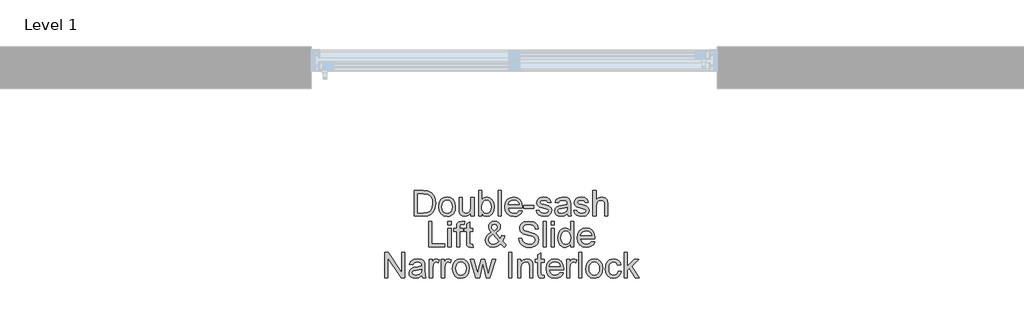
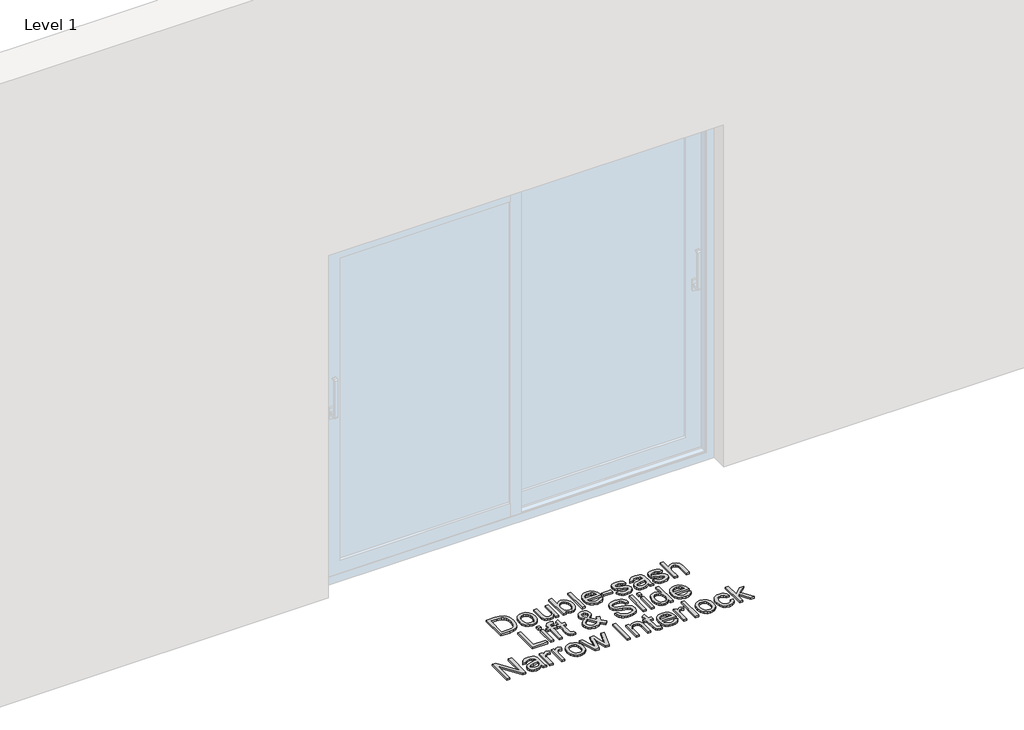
# One storey, part 4 of 17: 1 proxy.
"""IFC4 building model written with IfcOpenShell, lengths in millimetres."""

from ifc_helpers import new_model, si_unit, origin, origin_with_axes, place, context, project, spatial, polyline, outline, extrude, element, save

model = new_model("IFC4")

# Units and contexts
model_context = context("Model", 3, world=origin())
ifc_project = project(units=[si_unit("LENGTHUNIT", "METRE", prefix="MILLI")], contexts=[model_context])

# Site, building, storey
site = spatial("IfcSite", under=ifc_project)
building = spatial("IfcBuilding", under=site)
storey = spatial("IfcBuildingStorey", under=building, Name="Level 1", Elevation=0.0)

# Proxy
placement = place(None, origin())
element("IfcBuildingElementProxy", 1, Name="150mm Arial", ObjectType="150mm Arial", at=placement, inside=storey, context=model_context, shape_type="SweptSolid", body=[
    extrude(outline(polyline([(-1811.5990485, -897.6627533), (-1811.5990485, -746.9782881), (-1759.6173226, -746.9782881), (-1732.7251487, -749.1487919), (-1710.5786526, -759.9277343), (-1700.1583951, -771.4056526), (-1692.7363758, -785.679474), (-1688.2942007, -802.4732871), (-1686.8134757, -821.5111803), (-1690.8233895, -851.9166272), (-1701.1240853, -873.8607883), (-1714.8828719, -887.5276044), (-1732.8906956, -895.0875794), (-1757.115725, -897.6627533), (-1811.5990485, -897.6627533)]), holes=[polyline([(-1792.7634903, -878.8271952), (-1759.4333816, -878.8271952), (-1735.1899581, -876.1048684), (-1721.2104423, -868.4161347), (-1709.7509181, -849.7093353), (-1705.6490339, -821.2168747), (-1707.6585893, -800.6890594), (-1713.6872555, -785.5323212), (-1722.5945983, -775.1212607), (-1733.2401835, -768.8304786), (-1759.9484164, -765.8138463), (-1792.7634903, -765.8138463), (-1792.7634903, -878.8271952)])]), origin_with_axes(), (0.0, 0.0, 1.0), 10.0),
    extrude(outline(polyline([(-1667.9779176, -842.3333013), (-1663.9036245, -815.6526596), (-1651.6807452, -796.8998749), (-1636.5791893, -787.712022), (-1618.4977892, -784.6494044), (-1598.7103364, -788.3788081), (-1582.9052062, -799.5670193), (-1572.5447295, -817.3311212), (-1569.0912373, -840.7881969), (-1570.6179475, -859.8168931), (-1575.1980784, -874.3022466), (-1582.6982726, -885.150167), (-1592.9851728, -893.2665635), (-1605.2034536, -898.3295395), (-1618.4977892, -900.0171981), (-1638.5243653, -896.30159), (-1654.3111014, -885.1547655), (-1664.5612135, -867.0181831), (-1667.9779176, -842.3333013)]), holes=[polyline([(-1649.1423594, -842.2965131), (-1646.9626586, -859.343245), (-1640.4235561, -871.4879494), (-1630.5827127, -878.7582173), (-1618.4977892, -881.18164), (-1606.468048, -878.7444217), (-1596.6455987, -871.4327671), (-1590.1064962, -859.1271143), (-1587.9267954, -841.7079019), (-1590.1202918, -825.1578106), (-1596.700781, -813.1786531), (-1606.5370258, -805.9083852), (-1618.4977892, -803.4849626), (-1630.5827127, -805.8991882), (-1640.4235561, -813.141865), (-1646.9626586, -825.2589782), (-1649.1423594, -842.2965131)])]), origin_with_axes(), (0.0, 0.0, 1.0), 10.0),
    extrude(outline(polyline([(-1477.2678913, -897.6627533), (-1477.2678913, -878.6432542), (-1492.0199593, -894.6737121), (-1511.2601876, -900.0171981), (-1528.9737057, -896.2648018), (-1541.1873879, -886.8470227), (-1546.7975883, -872.9778715), (-1547.9012343, -855.4666885), (-1547.9012343, -787.0038492), (-1529.0656762, -787.0038492), (-1529.0656762, -846.6007324), (-1527.925242, -865.8041726), (-1520.4756316, -877.0797557), (-1506.4409335, -881.18164), (-1490.7139782, -876.9877852), (-1480.3213118, -865.5650493), (-1477.2678913, -844.5773814), (-1477.2678913, -787.0038492), (-1458.4323331, -787.0038492), (-1458.4323331, -897.6627533), (-1477.2678913, -897.6627533)])), origin_with_axes(), (0.0, 0.0, 1.0), 10.0),
    extrude(outline(polyline([(-1413.6978825, -897.6627533), (-1432.5334406, -897.6627533), (-1432.5334406, -746.9782881), (-1413.6978825, -746.9782881), (-1413.6978825, -802.8595632), (-1400.509313, -789.2019441), (-1384.1201701, -784.6494044), (-1365.2478237, -788.7512887), (-1350.6061203, -800.2843892), (-1341.6114055, -818.2186365), (-1338.3556499, -840.6778323), (-1341.7263687, -865.8225667), (-1351.838525, -884.5293661), (-1366.677965, -896.1452401), (-1384.2305347, -900.0171981), (-1400.9783625, -895.0232), (-1413.6978825, -880.0412058), (-1413.6978825, -897.6627533)]), holes=[polyline([(-1413.6978825, -841.5607491), (-1412.4102955, -857.2693103), (-1408.5475346, -867.9010999), (-1398.6791, -877.861505), (-1385.8492155, -881.18164), (-1374.9783025, -878.7352247), (-1365.6892821, -871.3959789), (-1359.3157266, -859.2098878), (-1357.191208, -842.2229367), (-1359.2283546, -824.9876652), (-1365.3397942, -812.9395299), (-1374.3391075, -805.8486044), (-1385.0398751, -803.4849626), (-1395.910788, -805.9313778), (-1405.1998084, -813.2706236), (-1411.573364, -825.2359855), (-1413.6978825, -841.5607491)])]), origin_with_axes(), (0.0, 0.0, 1.0), 10.0),
    extrude(outline(polyline([(-1317.165647, -897.6627533), (-1317.165647, -746.9782881), (-1298.3300888, -746.9782881), (-1298.3300888, -897.6627533), (-1317.165647, -897.6627533)])), origin_with_axes(), (0.0, 0.0, 1.0), 10.0),
    extrude(outline(polyline([(-1192.6008034, -864.7005266), (-1174.1331272, -867.0549713), (-1180.7871928, -880.9701078), (-1191.4051869, -891.3719712), (-1205.7479862, -897.8558914), (-1223.5764674, -900.0171981), (-1245.6769782, -896.2877944), (-1262.6823235, -885.0995832), (-1273.5256453, -867.1791315), (-1277.1400859, -843.2530063), (-1273.4888571, -818.5221391), (-1262.5351707, -800.0268718), (-1245.7597517, -788.4937713), (-1224.6433252, -784.6494044), (-1204.1844877, -788.4845742), (-1187.8367316, -799.9900836), (-1177.1175699, -818.4485627), (-1173.544516, -843.1426417), (-1173.6548806, -848.2194132), (-1258.3045277, -848.2194132), (-1255.0441735, -862.3184907), (-1247.470403, -872.6835659), (-1236.5397092, -879.0571214), (-1223.2085854, -881.18164), (-1204.7409092, -877.2453026), (-1192.6008034, -864.7005266)]), holes=[polyline([(-1258.3045277, -829.383855), (-1192.3800742, -829.383855), (-1194.927657, -819.4326471), (-1199.9216551, -812.3141305), (-1210.9029326, -805.6922545), (-1224.7169016, -803.4849626), (-1237.4134289, -805.2461976), (-1247.9118614, -810.5299028), (-1255.2097204, -818.765861), (-1258.3045277, -829.383855)])]), origin_with_axes(), (0.0, 0.0, 1.0), 10.0),
    extrude(outline(polyline([(-1164.126737, -852.9283027), (-1164.126737, -834.0927446), (-1105.2656177, -834.0927446), (-1105.2656177, -852.9283027), (-1164.126737, -852.9283027)])), origin_with_axes(), (0.0, 0.0, 1.0), 10.0),
    extrude(outline(polyline([(-1091.1389491, -864.7005266), (-1072.303391, -862.3460818), (-1069.3327439, -870.4026975), (-1063.5845877, -876.3255976), (-1043.6085953, -881.18164), (-1024.4051552, -876.7302678), (-1018.1511613, -866.2824192), (-1019.7238568, -861.4815591), (-1024.4419434, -857.8211333), (-1043.8293245, -852.4500561), (-1072.1930264, -843.2346122), (-1084.5722555, -832.4740638), (-1088.7845044, -817.2805374), (-1085.39999, -803.2458393), (-1076.1661519, -792.5220791), (-1064.191593, -786.9486669), (-1047.9863911, -784.6494044), (-1025.0673428, -788.3466185), (-1010.4992158, -798.3530087), (-1004.0244927, -815.2571864), (-1022.8600508, -817.6116312), (-1029.9417792, -807.2189648), (-1046.5148631, -803.4849626), (-1064.5410809, -807.0534179), (-1069.9489462, -815.367551), (-1067.704866, -820.8489927), (-1060.6783199, -825.0060593), (-1044.4547239, -829.015973), (-1016.808392, -837.8819291), (-1003.9693104, -847.9251076), (-999.3156031, -864.2958564), (-1004.7786508, -882.3220741), (-1020.5423942, -895.4002791), (-1043.8661127, -900.0171981), (-1062.8580207, -897.791512), (-1076.7179749, -891.1144538), (-1085.9702071, -880.0595999), (-1091.1389491, -864.7005266)])), origin_with_axes(), (0.0, 0.0, 1.0), 10.0),
    extrude(outline(polyline([(-907.4922571, -883.5360847), (-925.7575982, -896.30159), (-945.9359256, -900.0171981), (-961.6766765, -897.782315), (-973.287952, -891.0776656), (-980.4478553, -880.8965314), (-982.8344897, -868.2321937), (-979.2292462, -853.3329729), (-969.7562848, -842.5172423), (-956.5677153, -836.3368247), (-940.2705429, -833.5041334), (-907.6026217, -827.0294103), (-907.4922571, -822.8355555), (-908.7890412, -814.4294519), (-912.6793933, -808.9296161), (-921.3798024, -804.846126), (-933.5015142, -803.4849626), (-952.5578015, -807.1086002), (-961.6444868, -819.966076), (-980.480045, -817.6116312), (-972.3314588, -799.2175314), (-955.9239218, -788.438589), (-931.073493, -784.6494044), (-908.2464152, -787.9971306), (-895.3521513, -796.4032342), (-889.576404, -809.1871335), (-888.656699, -825.6682469), (-888.656699, -849.10233), (-887.7002058, -881.8254334), (-883.9478094, -897.6627533), (-902.7833676, -897.6627533), (-907.4922571, -883.5360847)]), holes=[polyline([(-907.4922571, -845.8649684), (-937.8793099, -851.6407157), (-954.0845118, -854.6941363), (-961.4237576, -859.6605432), (-963.9989316, -866.9078185), (-958.3887312, -877.0981498), (-941.9260119, -881.18164), (-922.8697245, -876.6750855), (-910.5824659, -865.7673844), (-907.6026217, -851.1992574), (-907.4922571, -845.8649684)])]), origin_with_axes(), (0.0, 0.0, 1.0), 10.0),
    extrude(outline(polyline([(-869.8211408, -864.7005266), (-850.9855827, -862.3460818), (-848.0149356, -870.4026975), (-842.2667794, -876.3255976), (-822.290787, -881.18164), (-803.0873469, -876.7302678), (-796.833353, -866.2824192), (-798.4060485, -861.4815591), (-803.1241351, -857.8211333), (-822.5115162, -852.4500561), (-850.8752181, -843.2346122), (-863.2544472, -832.4740638), (-867.4666961, -817.2805374), (-864.0821817, -803.2458393), (-854.8483436, -792.5220791), (-842.8737847, -786.9486669), (-826.6685828, -784.6494044), (-803.7495345, -788.3466185), (-789.1814075, -798.3530087), (-782.7066844, -815.2571864), (-801.5422425, -817.6116312), (-808.6239709, -807.2189648), (-825.1970548, -803.4849626), (-843.2232726, -807.0534179), (-848.6311379, -815.367551), (-846.3870577, -820.8489927), (-839.3605116, -825.0060593), (-823.1369156, -829.015973), (-795.4905837, -837.8819291), (-782.6515021, -847.9251076), (-777.9977948, -864.2958564), (-783.4608425, -882.3220741), (-799.2245859, -895.4002791), (-822.5483044, -900.0171981), (-841.5402124, -897.791512), (-855.4001666, -891.1144538), (-864.6523988, -880.0595999), (-869.8211408, -864.7005266)])), origin_with_axes(), (0.0, 0.0, 1.0), 10.0),
    extrude(outline(polyline([(-756.8077919, -897.6627533), (-756.8077919, -746.9782881), (-737.9722338, -746.9782881), (-737.9722338, -802.3813166), (-723.2845451, -789.0823825), (-705.193948, -784.6494044), (-684.0407333, -789.4870527), (-671.2016516, -802.8595632), (-667.3388907, -827.6180215), (-667.3388907, -897.6627533), (-686.1744488, -897.6627533), (-686.1744488, -829.567796), (-687.673568, -817.7771781), (-692.1709254, -809.7021683), (-699.4182007, -805.039264), (-709.1670735, -803.4849626), (-724.5997232, -807.6788173), (-734.9004191, -819.046371), (-737.9722338, -838.8752105), (-737.9722338, -897.6627533), (-756.8077919, -897.6627533)])), origin_with_axes(), (0.0, 0.0, 1.0), 10.0),
    extrude(outline(polyline([(-1726.8390368, -1080.6249801), (-1726.8390368, -929.9405149), (-1708.0034786, -929.9405149), (-1708.0034786, -1061.789422), (-1632.661246, -1061.789422), (-1632.661246, -1080.6249801), (-1726.8390368, -1080.6249801)])), origin_with_axes(), (0.0, 0.0, 1.0), 10.0),
    extrude(outline(polyline([(-1613.8256879, -948.776073), (-1613.8256879, -929.9405149), (-1594.9901297, -929.9405149), (-1594.9901297, -948.776073), (-1613.8256879, -948.776073)])), origin_with_axes(), (0.0, 0.0, 1.0), 10.0),
    extrude(outline(polyline([(-1613.8256879, -1080.6249801), (-1613.8256879, -969.966076), (-1594.9901297, -969.966076), (-1594.9901297, -1080.6249801), (-1613.8256879, -1080.6249801)])), origin_with_axes(), (0.0, 0.0, 1.0), 10.0),
    extrude(outline(polyline([(-1562.0279029, -1080.6249801), (-1562.0279029, -988.8016341), (-1578.5090163, -988.8016341), (-1578.5090163, -969.966076), (-1562.0279029, -969.966076), (-1562.0279029, -958.8192515), (-1560.0413402, -943.1106903), (-1550.4028319, -931.8902895), (-1531.4201209, -927.5860701), (-1514.2400318, -929.6462093), (-1516.9991467, -947.3045451), (-1527.8516656, -946.4216283), (-1539.7158599, -949.5486252), (-1543.1923448, -961.2104845), (-1543.1923448, -969.966076), (-1522.0023419, -969.966076), (-1522.0023419, -988.8016341), (-1543.1923448, -988.8016341), (-1543.1923448, -1080.6249801), (-1562.0279029, -1080.6249801)])), origin_with_axes(), (0.0, 0.0, 1.0), 10.0),
    extrude(outline(polyline([(-1465.4956674, -1064.9164189), (-1463.1412226, -1081.1768031), (-1477.2311031, -1082.9794249), (-1493.0132407, -1079.8524279), (-1500.8859153, -1071.6486594), (-1503.1667837, -1050.2747155), (-1503.1667837, -988.8016341), (-1517.2934523, -988.8016341), (-1517.2934523, -969.966076), (-1503.1667837, -969.966076), (-1503.1667837, -943.0739021), (-1484.3312256, -932.0006541), (-1484.3312256, -969.966076), (-1465.4956674, -969.966076), (-1465.4956674, -988.8016341), (-1484.3312256, -988.8016341), (-1484.3312256, -1049.7228925), (-1483.3379442, -1059.4349772), (-1480.1189767, -1062.8746738), (-1473.6994359, -1064.1438667), (-1465.4956674, -1064.9164189)])), origin_with_axes(), (0.0, 0.0, 1.0), 10.0),
    extrude(outline(polyline([(-1301.3835094, -1062.0101512), (-1321.3595017, -1077.7371064), (-1344.7200084, -1082.9794249), (-1365.5053411, -1079.0982698), (-1381.5082079, -1067.4548047), (-1389.7579617, -1054.054703), (-1392.5078796, -1039.1646793), (-1390.2959891, -1025.9669127), (-1383.6603176, -1014.1119154), (-1372.6284563, -1003.6088844), (-1357.2279962, -994.4670168), (-1370.3797776, -975.4107295), (-1373.6723214, -961.2840609), (-1371.0787533, -948.5645409), (-1363.2980492, -937.6292486), (-1351.5902047, -930.0968647), (-1337.2152157, -927.5860701), (-1323.5392025, -929.9865001), (-1312.6039102, -937.1877902), (-1305.4302113, -947.7552005), (-1303.0389783, -960.2539913), (-1304.8094104, -970.7478252), (-1310.1207067, -980.4507128), (-1331.365892, -997.4836492), (-1304.1058361, -1031.4391574), (-1295.975644, -1010.5802482), (-1277.1400859, -1014.6637384), (-1290.4574141, -1045.6761906), (-1267.7223068, -1068.4848743), (-1281.8489754, -1082.9794249), (-1301.3835094, -1062.0101512)]), holes=[polyline([(-1340.8940356, -985.6010608), (-1325.4062036, -973.9208074), (-1321.8745365, -962.8291653), (-1326.5282437, -951.0017591), (-1338.1717089, -946.4216283), (-1350.0726914, -950.9649709), (-1354.8367633, -962.0566131), (-1353.2180825, -968.9544005), (-1348.3252519, -976.6247401), (-1340.8940356, -985.6010608)]), polyline([(-1314.0018618, -1048.4353055), (-1347.6262762, -1006.4599699), (-1368.3196384, -1022.2421075), (-1373.6723214, -1036.6630817), (-1371.8421085, -1045.5474319), (-1366.3514697, -1054.7628758), (-1357.5039077, -1061.798619), (-1345.6029252, -1064.1438667), (-1328.2940773, -1059.766071), (-1314.0018618, -1048.4353055)])]), origin_with_axes(), (0.0, 0.0, 1.0), 10.0),
    extrude(outline(polyline([(-1194.734519, -1028.8271952), (-1175.8989608, -1028.8271952), (-1169.8289079, -1047.6811474), (-1155.0032635, -1059.6005241), (-1132.415309, -1064.1438667), (-1112.7336222, -1060.7041701), (-1100.0232993, -1051.2496028), (-1095.8478387, -1038.6128563), (-1098.9748356, -1026.8590265), (-1111.777129, -1018.3057701), (-1139.2027318, -1011.1136771), (-1168.7252619, -1001.8246567), (-1184.7465228, -987.8083527), (-1190.0256294, -969.0831592), (-1188.3931531, -958.0512978), (-1183.495724, -947.7643976), (-1175.4621009, -939.0455943), (-1164.4210426, -932.7180239), (-1136.4987991, -927.5860701), (-1106.7003575, -932.9571472), (-1095.2776216, -939.5882202), (-1086.8347298, -948.7392848), (-1081.4912438, -959.840124), (-1079.3667253, -972.3205207), (-1098.2022834, -972.3205207), (-1101.6603742, -961.0817258), (-1108.8708613, -952.9699278), (-1120.1372474, -948.0587031), (-1135.7630351, -946.4216283), (-1151.7567049, -948.040309), (-1162.7287854, -952.8963514), (-1169.0747498, -960.0424591), (-1171.1900713, -968.5313362), (-1169.6909521, -975.7694144), (-1165.1935947, -981.591147), (-1134.43866, -992.1125721), (-1101.1085512, -1001.5671393), (-1090.3709955, -1008.4005474), (-1082.8799983, -1016.8342421), (-1078.47921, -1026.7762531), (-1077.0122805, -1038.1346097), (-1078.6999392, -1049.7458851), (-1083.7629151, -1060.6673819), (-1091.9942748, -1070.0667668), (-1103.1870845, -1077.1117071), (-1116.646967, -1081.5124954), (-1131.679545, -1082.9794249), (-1150.1334256, -1081.3975323), (-1165.3223534, -1076.6518546), (-1177.4210726, -1068.7239976), (-1186.6043269, -1057.5955672), (-1192.4996358, -1044.0391157), (-1194.734519, -1028.8271952)])), origin_with_axes(), (0.0, 0.0, 1.0), 10.0),
    extrude(outline(polyline([(-1051.113388, -1080.6249801), (-1051.113388, -929.9405149), (-1032.2778299, -929.9405149), (-1032.2778299, -1080.6249801), (-1051.113388, -1080.6249801)])), origin_with_axes(), (0.0, 0.0, 1.0), 10.0),
    extrude(outline(polyline([(-1004.0244927, -948.776073), (-1004.0244927, -929.9405149), (-985.1889345, -929.9405149), (-985.1889345, -948.776073), (-1004.0244927, -948.776073)])), origin_with_axes(), (0.0, 0.0, 1.0), 10.0),
    extrude(outline(polyline([(-1004.0244927, -1080.6249801), (-1004.0244927, -969.966076), (-985.1889345, -969.966076), (-985.1889345, -1080.6249801), (-1004.0244927, -1080.6249801)])), origin_with_axes(), (0.0, 0.0, 1.0), 10.0),
    extrude(outline(polyline([(-888.656699, -1080.6249801), (-888.656699, -1062.8562797), (-901.1187016, -1077.9486386), (-918.344776, -1082.9794249), (-930.52167, -1081.158409), (-941.6684945, -1075.6953614), (-951.1046677, -1066.9719596), (-958.1496079, -1055.3698811), (-962.5366007, -1041.3581756), (-963.9989316, -1025.4058926), (-958.6094604, -995.42351), (-951.8772198, -983.5317245), (-942.4594408, -974.7853301), (-931.0688945, -969.4050559), (-918.4183524, -967.6116312), (-901.0543222, -972.743585), (-888.656699, -986.0793073), (-888.656699, -929.9405149), (-869.8211408, -929.9405149), (-869.8211408, -1080.6249801), (-888.656699, -1080.6249801)]), holes=[polyline([(-945.1633734, -1025.3323162), (-943.0388549, -1042.3698511), (-936.6652993, -1054.4869644), (-927.4038701, -1061.7296411), (-916.6157306, -1064.1438667), (-905.8321896, -1061.8400057), (-896.8052852, -1054.9284227), (-890.6938455, -1043.2803591), (-888.656699, -1026.767056), (-890.7306337, -1008.7132471), (-896.952438, -996.1960622), (-906.2092687, -988.8844076), (-917.3882828, -986.4471893), (-928.2867869, -988.7878385), (-937.2171223, -995.8097861), (-943.1768107, -1007.871717), (-945.1633734, -1025.3323162)])]), origin_with_axes(), (0.0, 0.0, 1.0), 10.0),
    extrude(outline(polyline([(-764.0918554, -1047.6627533), (-745.6241792, -1050.0171981), (-752.2782448, -1063.9323346), (-762.8962389, -1074.334198), (-777.2390382, -1080.8181182), (-795.0675194, -1082.9794249), (-817.1680303, -1079.2500212), (-834.1733755, -1068.06181), (-845.0166973, -1050.1413583), (-848.6311379, -1026.215233), (-844.9799091, -1001.4843659), (-834.0262227, -982.9890986), (-817.2508037, -971.455998), (-796.1343772, -967.6116312), (-775.6755397, -971.446801), (-759.3277836, -982.9523104), (-748.6086219, -1001.4107895), (-745.0355681, -1026.1048684), (-745.1459327, -1031.18164), (-829.7955797, -1031.18164), (-826.5352256, -1045.2807174), (-818.961455, -1055.6457926), (-808.0307612, -1062.0193482), (-794.6996374, -1064.1438667), (-776.2319612, -1060.2075294), (-764.0918554, -1047.6627533)]), holes=[polyline([(-829.7955797, -1012.3460818), (-763.8711262, -1012.3460818), (-766.418709, -1002.3948738), (-771.4127071, -995.2763572), (-782.3939847, -988.6544813), (-796.2079536, -986.4471893), (-808.9044809, -988.2084244), (-819.4029134, -993.4921296), (-826.7007725, -1001.7280877), (-829.7955797, -1012.3460818)])]), origin_with_axes(), (0.0, 0.0, 1.0), 10.0),
    extrude(outline(polyline([(-1987.0051838, -1263.5872069), (-1987.0051838, -1112.9027417), (-1966.8452504, -1112.9027417), (-1888.1185035, -1232.2804491), (-1888.1185035, -1112.9027417), (-1869.2829453, -1112.9027417), (-1869.2829453, -1263.5872069), (-1889.4428787, -1263.5872069), (-1968.1696256, -1144.1727112), (-1968.1696256, -1263.5872069), (-1987.0051838, -1263.5872069)])), origin_with_axes(), (0.0, 0.0, 1.0), 10.0),
    extrude(outline(polyline([(-1768.0418202, -1249.4605383), (-1786.3071613, -1262.2260435), (-1806.4854887, -1265.9416516), (-1822.2262396, -1263.7067685), (-1833.8375151, -1257.0021192), (-1840.9974184, -1246.8209849), (-1843.3840529, -1234.1566473), (-1839.7788093, -1219.2574265), (-1830.3058479, -1208.4416958), (-1817.1172784, -1202.2612783), (-1800.820106, -1199.4285869), (-1768.1521848, -1192.9538638), (-1768.0418202, -1188.7600091), (-1769.3386043, -1180.3539055), (-1773.2289564, -1174.8540696), (-1781.9293656, -1170.7705795), (-1794.0510773, -1169.4094161), (-1813.1073647, -1173.0330538), (-1822.1940499, -1185.8905295), (-1841.0296081, -1183.5360847), (-1832.8810219, -1165.141985), (-1816.4734849, -1154.3630425), (-1791.6230561, -1150.573858), (-1768.7959783, -1153.9215841), (-1755.9017144, -1162.3276877), (-1750.1259671, -1175.111587), (-1749.2062621, -1191.5927004), (-1749.2062621, -1215.0267835), (-1748.2497689, -1247.749887), (-1744.4973726, -1263.5872069), (-1763.3329307, -1263.5872069), (-1768.0418202, -1249.4605383)]), holes=[polyline([(-1768.0418202, -1211.789422), (-1798.428873, -1217.5651693), (-1814.6340749, -1220.6185898), (-1821.9733207, -1225.5849968), (-1824.5484947, -1232.8322721), (-1818.9382943, -1243.0226033), (-1802.475575, -1247.1060935), (-1783.4192876, -1242.5995391), (-1771.132029, -1231.6918379), (-1768.1521848, -1217.1237109), (-1768.0418202, -1211.789422)])]), origin_with_axes(), (0.0, 0.0, 1.0), 10.0),
    extrude(outline(polyline([(-1723.3073696, -1263.5872069), (-1723.3073696, -1152.9283027), (-1706.8262562, -1152.9283027), (-1706.8262562, -1169.2990515), (-1695.1276088, -1154.2158897), (-1683.355385, -1150.573858), (-1664.4462504, -1156.3863935), (-1670.7370325, -1173.2721771), (-1683.9807843, -1169.4094161), (-1694.6309681, -1173.1250243), (-1701.4183909, -1183.4257201), (-1704.4718115, -1205.4250634), (-1704.4718115, -1263.5872069), (-1723.3073696, -1263.5872069)])), origin_with_axes(), (0.0, 0.0, 1.0), 10.0),
    extrude(outline(polyline([(-1652.6740266, -1263.5872069), (-1652.6740266, -1152.9283027), (-1636.1929132, -1152.9283027), (-1636.1929132, -1169.2990515), (-1624.4942657, -1154.2158897), (-1612.7220419, -1150.573858), (-1593.8129073, -1156.3863935), (-1600.1036894, -1173.2721771), (-1613.3474413, -1169.4094161), (-1623.997625, -1173.1250243), (-1630.7850478, -1183.4257201), (-1633.8384684, -1205.4250634), (-1633.8384684, -1263.5872069), (-1652.6740266, -1263.5872069)])), origin_with_axes(), (0.0, 0.0, 1.0), 10.0),
    extrude(outline(polyline([(-1586.749573, -1208.2577548), (-1582.6752799, -1181.5771131), (-1570.4524006, -1162.8243284), (-1555.3508447, -1153.6364756), (-1537.2694447, -1150.573858), (-1517.4819919, -1154.3032617), (-1501.6768616, -1165.4914729), (-1491.3163849, -1183.2555747), (-1487.8628927, -1206.7126504), (-1489.389603, -1225.7413466), (-1493.9697338, -1240.2267002), (-1501.469928, -1251.0746205), (-1511.7568283, -1259.191017), (-1523.9751091, -1264.253993), (-1537.2694447, -1265.9416516), (-1557.2960208, -1262.2260435), (-1573.0827569, -1251.079219), (-1583.332869, -1232.9426367), (-1586.749573, -1208.2577548)]), holes=[polyline([(-1567.9140149, -1208.2209666), (-1565.734314, -1225.2676986), (-1559.1952116, -1237.4124029), (-1549.3543682, -1244.6826709), (-1537.2694447, -1247.1060935), (-1525.2397034, -1244.6688753), (-1515.4172542, -1237.3572206), (-1508.8781517, -1225.0515679), (-1506.6984509, -1207.6323554), (-1508.8919473, -1191.0822642), (-1515.4724365, -1179.1031067), (-1525.3086813, -1171.8328388), (-1537.2694447, -1169.4094161), (-1549.3543682, -1171.8236417), (-1559.1952116, -1179.0663185), (-1565.734314, -1191.1834317), (-1567.9140149, -1208.2209666)])]), origin_with_axes(), (0.0, 0.0, 1.0), 10.0),
    extrude(outline(polyline([(-1448.3155782, -1263.5872069), (-1481.9767808, -1152.9283027), (-1462.4054587, -1152.9283027), (-1443.3123831, -1217.4915929), (-1437.6102122, -1240.557794), (-1432.9381108, -1218.3377215), (-1417.7445844, -1152.9283027), (-1395.3037827, -1152.9283027), (-1380.1838327, -1218.1537805), (-1376.0267662, -1238.2769256), (-1370.0670779, -1217.0501345), (-1350.9372141, -1152.9283027), (-1331.2923156, -1152.9283027), (-1365.2110355, -1263.5872069), (-1387.982931, -1263.5872069), (-1402.4406934, -1198.6928229), (-1406.6345482, -1178.4593132), (-1425.2861653, -1263.5872069), (-1448.3155782, -1263.5872069)])), origin_with_axes(), (0.0, 0.0, 1.0), 10.0),
    extrude(outline(polyline([(-1254.7728606, -1263.5872069), (-1254.7728606, -1112.9027417), (-1235.9373024, -1112.9027417), (-1235.9373024, -1263.5872069), (-1254.7728606, -1263.5872069)])), origin_with_axes(), (0.0, 0.0, 1.0), 10.0),
    extrude(outline(polyline([(-1200.6206309, -1263.5872069), (-1200.6206309, -1152.9283027), (-1181.7850727, -1152.9283027), (-1181.7850727, -1168.3793465), (-1167.3824926, -1155.0252301), (-1147.7192, -1150.573858), (-1129.9321055, -1154.1607074), (-1117.7919997, -1163.5784865), (-1112.145011, -1177.4292436), (-1111.1517297, -1195.6394024), (-1111.1517297, -1263.5872069), (-1129.9872878, -1263.5872069), (-1129.9872878, -1198.1777881), (-1132.1577916, -1181.5127338), (-1139.8281312, -1172.70196), (-1152.7591833, -1169.4094161), (-1163.7910446, -1171.2580231), (-1173.1950281, -1176.8038442), (-1179.6375616, -1187.5184073), (-1181.7850727, -1204.8732404), (-1181.7850727, -1263.5872069), (-1200.6206309, -1263.5872069)])), origin_with_axes(), (0.0, 0.0, 1.0), 10.0),
    extrude(outline(polyline([(-1045.2272761, -1247.8786457), (-1042.8728314, -1264.1390299), (-1056.9627118, -1265.9416516), (-1072.7448494, -1262.8146547), (-1080.6175241, -1254.6108862), (-1082.8983924, -1233.2369423), (-1082.8983924, -1171.7638609), (-1097.025061, -1171.7638609), (-1097.025061, -1152.9283027), (-1082.8983924, -1152.9283027), (-1082.8983924, -1126.0361289), (-1064.0628343, -1114.9628808), (-1064.0628343, -1152.9283027), (-1045.2272761, -1152.9283027), (-1045.2272761, -1171.7638609), (-1064.0628343, -1171.7638609), (-1064.0628343, -1232.6851193), (-1063.0695529, -1242.397204), (-1059.8505854, -1245.8369006), (-1053.4310446, -1247.1060935), (-1045.2272761, -1247.8786457)])), origin_with_axes(), (0.0, 0.0, 1.0), 10.0),
    extrude(outline(polyline([(-948.9157698, -1230.6249801), (-930.4480936, -1232.9794249), (-937.1021592, -1246.8945613), (-947.7201533, -1257.2964248), (-962.0629526, -1263.7803449), (-979.8914338, -1265.9416516), (-1001.9919446, -1262.2122479), (-1018.9972899, -1251.0240367), (-1029.8406117, -1233.1035851), (-1033.4550523, -1209.1774598), (-1029.8038235, -1184.4465927), (-1018.8501371, -1165.9513254), (-1002.0747181, -1154.4182248), (-980.9582916, -1150.573858), (-960.4994541, -1154.4090278), (-944.1516979, -1165.9145372), (-933.4325363, -1184.3730163), (-929.8594824, -1209.0670952), (-929.969847, -1214.1438667), (-1014.6194941, -1214.1438667), (-1011.3591399, -1228.2429442), (-1003.7853694, -1238.6080194), (-992.8546756, -1244.981575), (-979.5235518, -1247.1060935), (-961.0558756, -1243.1697561), (-948.9157698, -1230.6249801)]), holes=[polyline([(-1014.6194941, -1195.3083086), (-948.6950406, -1195.3083086), (-951.2426234, -1185.3571006), (-956.2366215, -1178.238584), (-967.217899, -1171.6167081), (-981.031868, -1169.4094161), (-993.7283953, -1171.1706512), (-1004.2268278, -1176.4543563), (-1011.5246868, -1184.6903145), (-1014.6194941, -1195.3083086)])]), origin_with_axes(), (0.0, 0.0, 1.0), 10.0),
    extrude(outline(polyline([(-911.0239243, -1263.5872069), (-911.0239243, -1152.9283027), (-894.5428109, -1152.9283027), (-894.5428109, -1169.2990515), (-882.8441635, -1154.2158897), (-871.0719396, -1150.573858), (-852.1628051, -1156.3863935), (-858.4535872, -1173.2721771), (-871.697339, -1169.4094161), (-882.3475228, -1173.1250243), (-889.1349456, -1183.4257201), (-892.1883661, -1205.4250634), (-892.1883661, -1263.5872069), (-911.0239243, -1263.5872069)])), origin_with_axes(), (0.0, 0.0, 1.0), 10.0),
    extrude(outline(polyline([(-840.3905812, -1263.5872069), (-840.3905812, -1112.9027417), (-821.5550231, -1112.9027417), (-821.5550231, -1263.5872069), (-840.3905812, -1263.5872069)])), origin_with_axes(), (0.0, 0.0, 1.0), 10.0),
    extrude(outline(polyline([(-798.0105754, -1208.2577548), (-793.9362823, -1181.5771131), (-781.713403, -1162.8243284), (-766.6118471, -1153.6364756), (-748.530447, -1150.573858), (-728.7429942, -1154.3032617), (-712.937864, -1165.4914729), (-702.5773873, -1183.2555747), (-699.1238951, -1206.7126504), (-700.6506053, -1225.7413466), (-705.2307362, -1240.2267002), (-712.7309304, -1251.0746205), (-723.0178306, -1259.191017), (-735.2361114, -1264.253993), (-748.530447, -1265.9416516), (-768.5570231, -1262.2260435), (-784.3437592, -1251.079219), (-794.5938713, -1232.9426367), (-798.0105754, -1208.2577548)]), holes=[polyline([(-779.1750172, -1208.2209666), (-776.9953164, -1225.2676986), (-770.4562139, -1237.4124029), (-760.6153706, -1244.6826709), (-748.530447, -1247.1060935), (-736.5007058, -1244.6688753), (-726.6782565, -1237.3572206), (-720.139154, -1225.0515679), (-717.9594532, -1207.6323554), (-720.1529496, -1191.0822642), (-726.7334388, -1179.1031067), (-736.5696836, -1171.8328388), (-748.530447, -1169.4094161), (-760.6153706, -1171.8236417), (-770.4562139, -1179.0663185), (-776.9953164, -1191.1834317), (-779.1750172, -1208.2209666)])]), origin_with_axes(), (0.0, 0.0, 1.0), 10.0),
    extrude(outline(polyline([(-607.3005491, -1223.5616458), (-588.4649909, -1225.9160906), (-593.7165064, -1242.6685169), (-603.5849409, -1255.3282561), (-617.1413924, -1263.2883028), (-633.4569589, -1265.9416516), (-653.4927321, -1262.2398391), (-669.1599066, -1251.1344013), (-679.2720629, -1233.1127821), (-682.6427817, -1208.662425), (-681.2034434, -1191.9008016), (-676.8854285, -1177.3740613), (-669.619759, -1165.6432242), (-659.3374573, -1157.2693103), (-647.0364031, -1152.247721), (-633.7144763, -1150.573858), (-617.7989815, -1152.8731204), (-605.074863, -1159.7709078), (-595.946791, -1170.8993382), (-590.8194357, -1185.8905295), (-609.6549938, -1188.2449743), (-618.3921912, -1174.1366998), (-633.5673235, -1169.4094161), (-645.739619, -1171.7362697), (-655.4011199, -1178.7168306), (-661.7056976, -1190.7281777), (-663.8072235, -1208.1473902), (-661.7516829, -1225.8011274), (-655.5850609, -1237.8538613), (-646.098304, -1244.7930354), (-634.0823583, -1247.1060935), (-624.3288869, -1245.6621567), (-616.332052, -1241.3303462), (-610.514918, -1234.0002974), (-607.3005491, -1223.5616458)])), origin_with_axes(), (0.0, 0.0, 1.0), 10.0),
    extrude(outline(polyline([(-571.9838775, -1263.5872069), (-571.9838775, -1112.9027417), (-553.1483194, -1112.9027417), (-553.1483194, -1193.8735688), (-510.9154663, -1152.9283027), (-484.8694211, -1152.9283027), (-527.6173089, -1194.3886036), (-482.5149763, -1263.5872069), (-504.5143196, -1263.5872069), (-541.1185781, -1207.4852026), (-553.1483194, -1219.1470619), (-553.1483194, -1263.5872069), (-571.9838775, -1263.5872069)])), origin_with_axes(), (0.0, 0.0, 1.0), 10.0),
])

save(model, "model.ifc")
